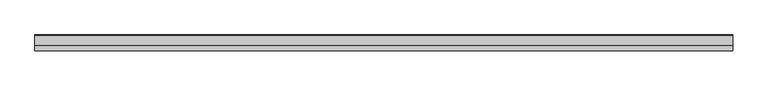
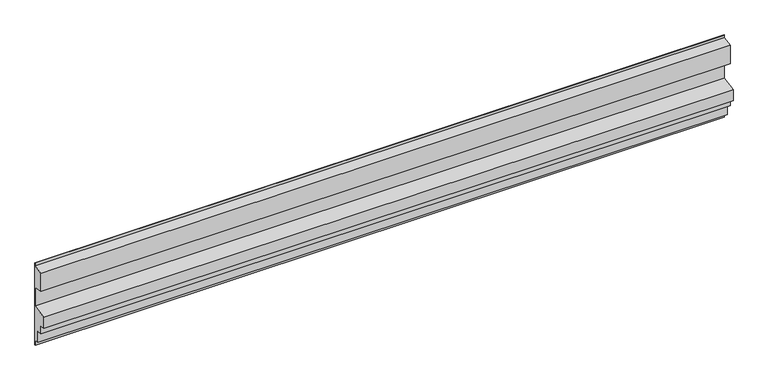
"""IFC4 building model written with IfcOpenShell, lengths in millimetres: plate geometry, ATELIERS 3S_NEW YORK MANHATTAN 780_HORIZONTAL : AZURO."""

from ifc_helpers import new_model, si_unit, frame, origin, place, context, project, spatial, polyline, outline, extrude, source, transform, mapped, element, save


def plate_ebf6ff52(model_context):
    return source(origin(), model_context, "Body", "SweptSolid", [
        extrude(outline(polyline([(-0.75, 328.5800585), (-0.75, 340.0), (0.0, 340.0), (0.0, 0.0), (-0.8, 0.0), (-0.8, 19.6941775), (-20.7501589, 23.211221), (-20.7501589, 68.2118488), (-40.7500015, 71.7384174), (-40.7500015, 101.7384166), (-60.7500001, 105.2649565), (-60.7500001, 150.8942812), (-0.75, 161.4739), (-0.75, 238.8445753), (-40.75, 245.8976546), (-40.75, 321.5269793), (-0.75, 328.5800585)])), frame((-1347.25, 0.0, 0.0), z_axis=(1.0, 0.0, 0.0), x_axis=(0.0, 1.0, 0.0)), (0.0, 0.0, 1.0), 2694.5),
    ])


if __name__ == "__main__":
    model = new_model("IFC4")
    model_context = context("Model", 3, world=origin())
    ifc_project = project(units=[si_unit("LENGTHUNIT", "METRE", prefix="MILLI")], contexts=[model_context])
    site = spatial("IfcSite", under=ifc_project)
    building = spatial("IfcBuilding", under=site)
    placement = place(None, origin())
    plate_shape = plate_ebf6ff52(model_context)
    element("IfcPlate", 1, ObjectType="ATELIERS 3S_NEW YORK MANHATTAN 780_HORIZONTAL : AZURO", at=placement, inside=building, context=model_context, shape_type="MappedRepresentation", body=[
        mapped(plate_shape, transform((0.0, 0.0, 0.0), x_axis=(1.0, 0.0, 0.0), y_axis=(0.0, 1.0, 0.0), z_axis=(0.0, 0.0, 1.0))),
    ])
    save(model, "model.ifc")
